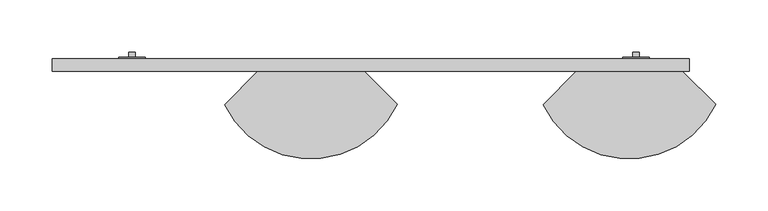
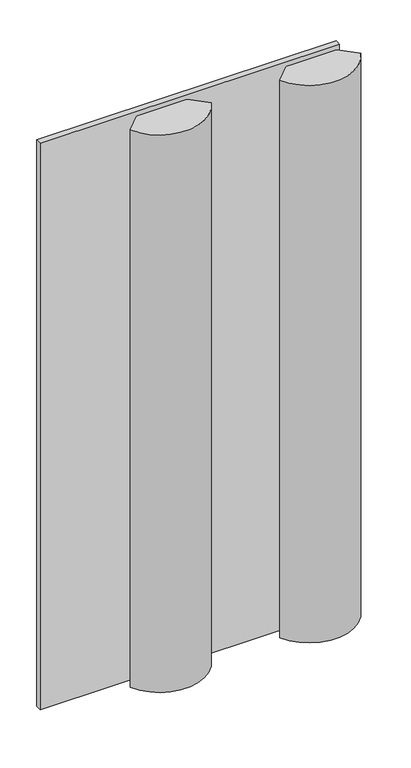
"""IFC4 building model written with IfcOpenShell, lengths in millimetres: proxy geometry, Arktura-SoundForm-Arc-RFA : Arktura-SoundForm-Arc-RFA."""

from ifc_helpers import new_model, si_unit, point, frame, frame_2d, origin, origin_with_axes, place, context, project, spatial, polyline, circle_curve, trimmed, segment, composite_curve, outline, extrude, source, transform, mapped, element, save


def generic_models_7e11c711(model_context):
    return source(origin(), model_context, "Body", "SweptSolid", [
        extrude(outline(polyline([(76.2, -31.75), (50.8, -31.75), (50.8, -30.3215536), (76.2, -30.3215536), (76.2, -31.75)])), frame((0.0, 0.0, 1133.475), z_axis=(0.0, 0.0, 1.0), x_axis=(1.0, 0.0, 0.0)), (0.0, 0.0, 1.0), 25.4),
        extrude(outline(composite_curve([segment(trimmed(circle_curve(frame_2d((1146.175, 63.5)), 3.175), [point((1146.175, 60.325))], [point((1146.175, 66.675))], False, "CARTESIAN"), True, "CONTINUOUS"), segment(trimmed(circle_curve(frame_2d((1146.175, 63.5)), 3.175), [point((1146.175, 66.675))], [point((1146.175, 60.325))], False, "CARTESIAN"), True, "CONTINUOUS")], self_intersect=False)), frame((0.0, -30.3215536, 0.0), z_axis=(0.0, 1.0, 0.0), x_axis=(0.0, 0.0, 1.0)), (0.0, 0.0, 1.0), 4.9215536),
        extrude(outline(polyline([(558.8, -31.75), (533.4, -31.75), (533.4, -30.3215536), (558.8, -30.3215536), (558.8, -31.75)])), frame((0.0, 0.0, 1133.475), z_axis=(0.0, 0.0, 1.0), x_axis=(1.0, 0.0, 0.0)), (0.0, 0.0, 1.0), 25.4),
        extrude(outline(composite_curve([segment(trimmed(circle_curve(frame_2d((1146.175, 546.1)), 3.175), [point((1146.175, 542.925))], [point((1146.175, 549.275))], False, "CARTESIAN"), True, "CONTINUOUS"), segment(trimmed(circle_curve(frame_2d((1146.175, 546.1)), 3.175), [point((1146.175, 549.275))], [point((1146.175, 542.925))], False, "CARTESIAN"), True, "CONTINUOUS")], self_intersect=False)), frame((0.0, -30.3215536, 0.0), z_axis=(0.0, 1.0, 0.0), x_axis=(0.0, 0.0, 1.0)), (0.0, 0.0, 1.0), 4.9215536),
        extrude(outline(polyline([(558.8, -31.75), (533.4, -31.75), (533.4, -30.3215536), (558.8, -30.3215536), (558.8, -31.75)])), frame((0.0, 0.0, 60.325), z_axis=(0.0, 0.0, 1.0), x_axis=(1.0, 0.0, 0.0)), (0.0, 0.0, 1.0), 25.4),
        extrude(outline(composite_curve([segment(trimmed(circle_curve(frame_2d((73.025, 546.1)), 3.175), [point((73.025, 542.925))], [point((73.025, 549.275))], False, "CARTESIAN"), True, "CONTINUOUS"), segment(trimmed(circle_curve(frame_2d((73.025, 546.1)), 3.175), [point((73.025, 549.275))], [point((73.025, 542.925))], False, "CARTESIAN"), True, "CONTINUOUS")], self_intersect=False)), frame((0.0, -30.3215536, 0.0), z_axis=(0.0, 1.0, 0.0), x_axis=(0.0, 0.0, 1.0)), (0.0, 0.0, 1.0), 4.9215536),
        extrude(outline(polyline([(76.2, -31.75), (50.8, -31.75), (50.8, -30.3215536), (76.2, -30.3215536), (76.2, -31.75)])), frame((0.0, 0.0, 60.325), z_axis=(0.0, 0.0, 1.0), x_axis=(1.0, 0.0, 0.0)), (0.0, 0.0, 1.0), 25.4),
        extrude(outline(composite_curve([segment(trimmed(circle_curve(frame_2d((73.025, 63.5)), 3.175), [point((73.025, 60.325))], [point((73.025, 66.675))], False, "CARTESIAN"), True, "CONTINUOUS"), segment(trimmed(circle_curve(frame_2d((73.025, 63.5)), 3.175), [point((73.025, 66.675))], [point((73.025, 60.325))], False, "CARTESIAN"), True, "CONTINUOUS")], self_intersect=False)), frame((0.0, -30.3215536, 0.0), z_axis=(0.0, 1.0, 0.0), x_axis=(0.0, 0.0, 1.0)), (0.0, 0.0, 1.0), 4.9215536),
        extrude(outline(polyline([(-12.7, -43.749976), (-12.7, -31.75), (596.9, -31.75), (596.9, -43.749976), (-12.7, -43.749976)])), origin_with_axes(), (0.0, 0.0, 1.0), 1219.2),
        extrude(outline(composite_curve([segment(polyline([(539.75, -43.7499999), (590.5500179, -43.7499999), (622.4852586, -75.1103039)]), True, "CONTINUOUS"), segment(trimmed(circle_curve(frame_2d((539.75, -36.0156362)), 91.5069181), [point((622.4852586, -75.1103039))], [point((457.2, -75.499982))], False, "CARTESIAN"), True, "CONTINUOUS"), segment(polyline([(457.2, -75.499982), (488.9499821, -43.7499999), (539.75, -43.7499999)]), True, "CONTINUOUS")], self_intersect=False)), frame((0.0, 0.0, 9.525), z_axis=(0.0, 0.0, 1.0), x_axis=(1.0, 0.0, 0.0)), (0.0, 0.0, 1.0), 1200.15),
        extrude(outline(composite_curve([segment(polyline([(234.95, -43.7499999), (285.7500179, -43.7499999), (317.6852586, -75.1103039)]), True, "CONTINUOUS"), segment(trimmed(circle_curve(frame_2d((234.95, -36.0156362)), 91.5069181), [point((317.6852586, -75.1103039))], [point((152.4, -75.499982))], False, "CARTESIAN"), True, "CONTINUOUS"), segment(polyline([(152.4, -75.499982), (184.1499821, -43.7499999), (234.95, -43.7499999)]), True, "CONTINUOUS")], self_intersect=False)), frame((0.0, 0.0, 9.525), z_axis=(0.0, 0.0, 1.0), x_axis=(1.0, 0.0, 0.0)), (0.0, 0.0, 1.0), 1200.15),
    ])


if __name__ == "__main__":
    model = new_model("IFC4")
    model_context = context("Model", 3, world=origin())
    ifc_project = project(units=[si_unit("LENGTHUNIT", "METRE", prefix="MILLI")], contexts=[model_context])
    site = spatial("IfcSite", under=ifc_project)
    building = spatial("IfcBuilding", under=site)
    placement = place(None, origin())
    generic_models_shape = generic_models_7e11c711(model_context)
    element("IfcBuildingElementProxy", 1, Name="Arktura-SoundForm-Arc-RFA : Arktura-SoundForm-Arc-RFA", ObjectType="Arktura-SoundForm-Arc-RFA : Arktura-SoundForm-Arc-RFA", at=placement, inside=building, context=model_context, shape_type="MappedRepresentation", body=[
        mapped(generic_models_shape, transform((0.0, 0.0, 0.0), x_axis=(1.0, 0.0, 0.0), y_axis=(0.0, 1.0, 0.0), z_axis=(0.0, 0.0, 1.0))),
    ])
    save(model, "model.ifc")
